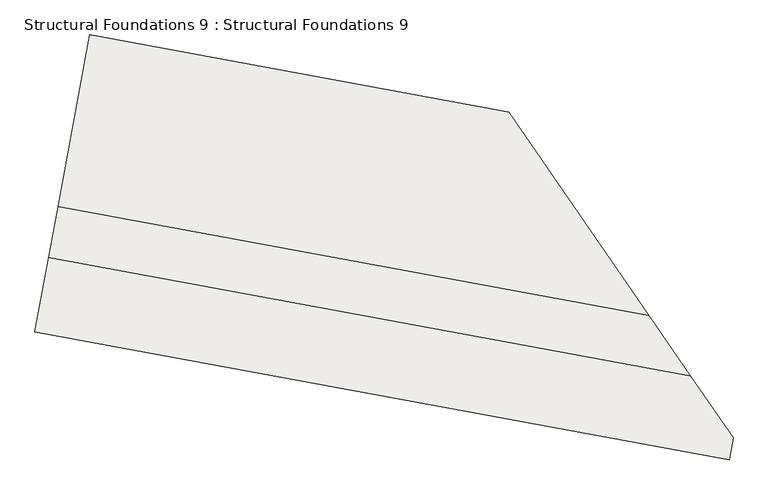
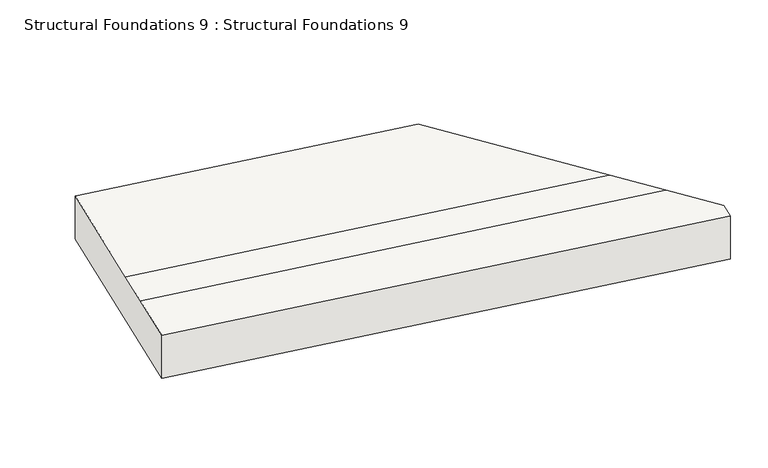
"""IFC4 building model written with IfcOpenShell, lengths in millimetres: slab geometry, Structural Foundations 9 : Structural Foundations 9."""

from ifc_helpers import new_model, si_unit, origin, place, context, project, spatial, faceted_brep, source, transform, mapped, element, save


def structural_foundations_9_structural_foundations_9_60139650(model_context):
    return source(origin(), model_context, "Body", "Brep", [
        faceted_brep([(-357700.6920007, -451954.4921232, 635044.0), (-357700.6920007, -451954.4921232, 634394.0), (-357657.6036982, -451720.6438551, 634394.0), (-357657.6036982, -451720.6438551, 635044.0), (-364467.1629837, -447453.8510098, 634336.0), (-365047.0258008, -450600.8748592, 634336.0), (-365047.0258008, -450600.8748592, 634986.0), (-364902.0600963, -449814.118896, 634986.0), (-364802.3961748, -449273.2241728, 634986.0), (-364467.1629837, -447453.8510098, 634986.0), (-360034.0093995, -448270.6929052, 635021.0001667), (-360034.0093995, -448270.6929052, 634371.0001667), (-358549.8665332, -450425.2997927, 635035.3643127), (-358108.634871, -451065.8585959, 635039.6347345)], [[[0, 1, 2, 3]], [[4, 5, 6, 7, 8, 9]], [[4, 9, 10, 11]], [[9, 8, 12, 10]], [[8, 7, 13, 12]], [[7, 6, 0, 3, 13]], [[1, 0, 6, 5]], [[5, 4, 11, 2, 1]], [[3, 2, 11, 10, 12, 13]]]),
    ])


if __name__ == "__main__":
    model = new_model("IFC4")
    model_context = context("Model", 3, world=origin())
    ifc_project = project(units=[si_unit("LENGTHUNIT", "METRE", prefix="MILLI")], contexts=[model_context])
    site = spatial("IfcSite", under=ifc_project)
    building = spatial("IfcBuilding", under=site)
    placement = place(None, origin())
    structural_foundations_9_structural_foundations_9_shape = structural_foundations_9_structural_foundations_9_60139650(model_context)
    element("IfcSlab", 1, ObjectType="Structural Foundations 9 : Structural Foundations 9", at=placement, inside=building, context=model_context, shape_type="MappedRepresentation", body=[
        mapped(structural_foundations_9_structural_foundations_9_shape, transform((0.0, 0.0, 0.0), x_axis=(1.0, 0.0, 0.0), y_axis=(0.0, 1.0, 0.0), z_axis=(0.0, 0.0, 1.0))),
    ])
    save(model, "model.ifc")
